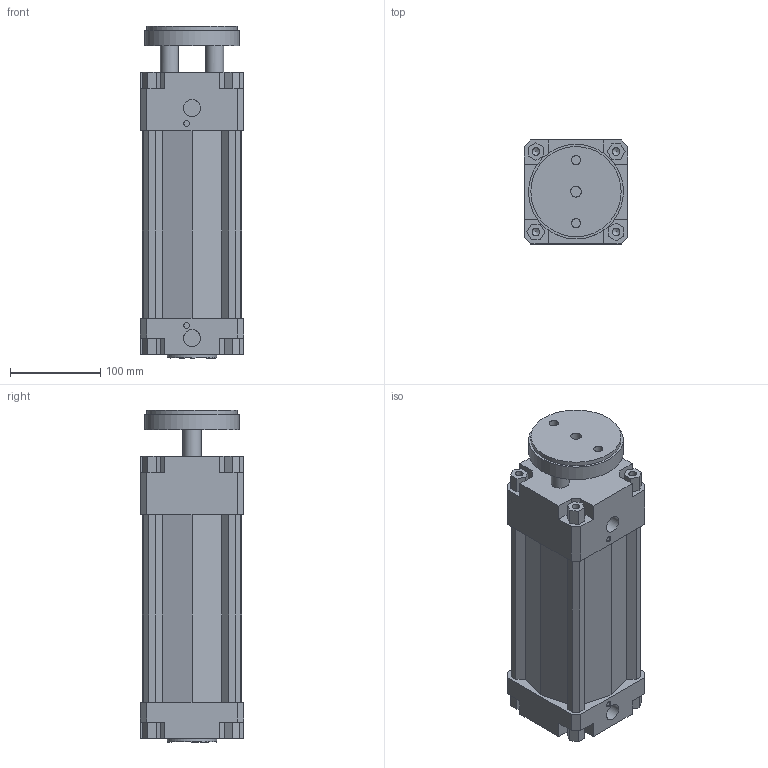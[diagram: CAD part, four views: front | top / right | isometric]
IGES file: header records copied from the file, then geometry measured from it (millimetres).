
Global section: file name: 134#_100_0150_01; native system: Autodesk Inventor 2014; preprocessor: unknown; author: A. Manieri; date: 20161006.165304; units: millimetre
Bounding box: 115 x 115 x 368 mm (x, y, z)
Volume: 2572211.8 mm3; surface area: 365309.2 mm2
Topology: 2 solids, 2 shells, 180 faces, 491 edges, 335 vertices
Faces by surface type: bspline 180
